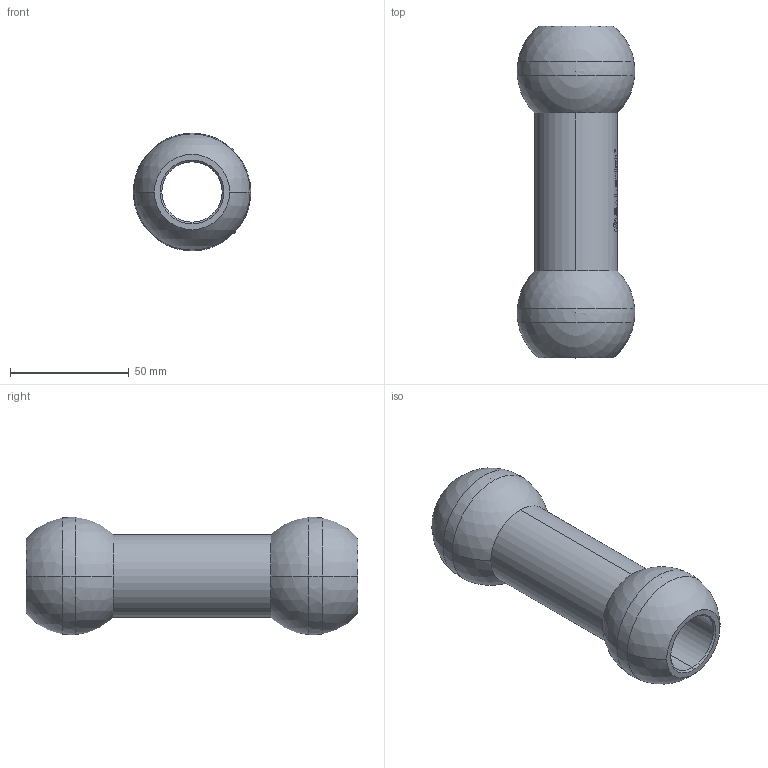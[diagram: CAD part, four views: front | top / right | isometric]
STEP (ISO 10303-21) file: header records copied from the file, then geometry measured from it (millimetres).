
FILE_DESCRIPTION (( 'STEP AP203' ), '1' );
FILE_NAME ('AFSB-3-4HD.STEP', '2018-09-11T15:51:01', ( 'admin' ), ( '' ), 'SwSTEP 2.0', 'SolidWorks 2018', '' );
FILE_SCHEMA (( 'CONFIG_CONTROL_DESIGN' ));
Length unit declared in the file: inch
Products named in the file (1): AFSB-3-4HD
Bounding box: 49.53 x 139.7 x 49.53 mm (x, y, z)
Volume: 108110.6 mm3; surface area: 30325.2 mm2
Topology: 1 solids, 1 shells, 100 faces, 1224 edges, 1200 vertices
Faces by surface type: cylinder 82, sphere 12, cone 4, plane 2
Entity records: 13883 total; most frequent: CARTESIAN_POINT 5608, ORIENTED_EDGE 2428, EDGE_CURVE 1214, VERTEX_POINT 1194, DIRECTION 972, B_SPLINE_CURVE_WITH_KNOTS 705, AXIS2_PLACEMENT_3D 362, CIRCLE 261
